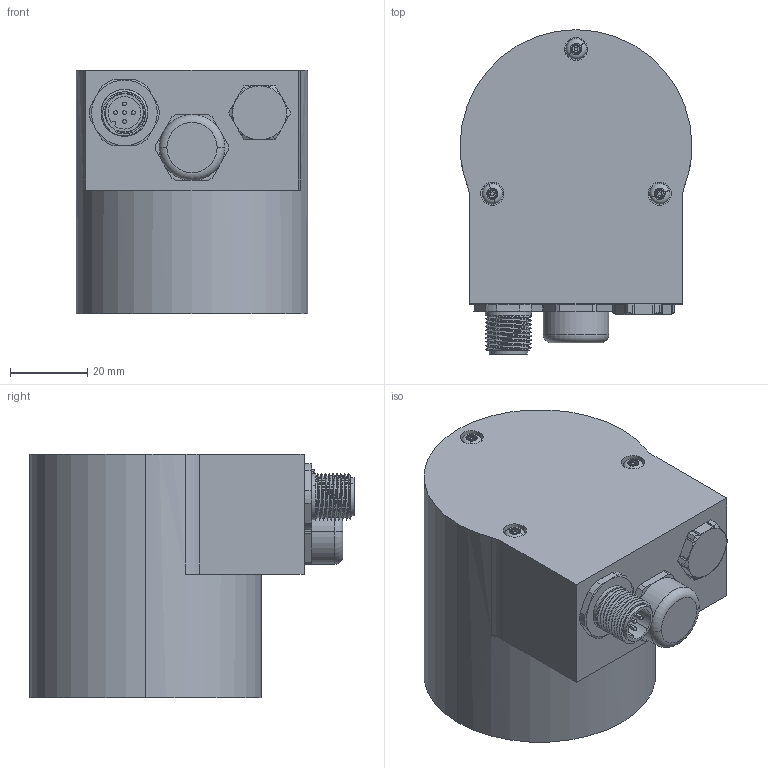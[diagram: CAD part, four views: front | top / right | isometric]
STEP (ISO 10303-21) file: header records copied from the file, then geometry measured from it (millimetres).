
FILE_DESCRIPTION (( 'STEP AP214' ), '1' );
FILE_NAME ('Drawing-OC-5-CR-630-SZM-NNN-GRN-N+plug.STEP', '2016-07-21T14:21:09', ( '' ), ( '' ), 'SwSTEP 2.0', 'SolidWorks 2015', '' );
FILE_SCHEMA (( 'AUTOMOTIVE_DESIGN' ));
Length unit declared in the file: millimetre
Products named in the file (1): Drawing-OC-5-CR-630-SZM-NNN-GRN-N+plug
Bounding box: 60 x 84 x 63 mm (x, y, z)
Volume: 49082.3 mm3; surface area: 44060.3 mm2
Topology: 9 solids, 9 shells, 444 faces, 1126 edges, 719 vertices
Faces by surface type: cylinder 179, plane 112, cone 92, torus 50, bspline 6, sphere 5
Entity records: 20566 total; most frequent: CARTESIAN_POINT 4922, DIRECTION 2345, ORIENTED_EDGE 2212, EDGE_CURVE 1106, AXIS2_PLACEMENT_3D 1002, VERTEX_POINT 709, CIRCLE 563, EDGE_LOOP 487
